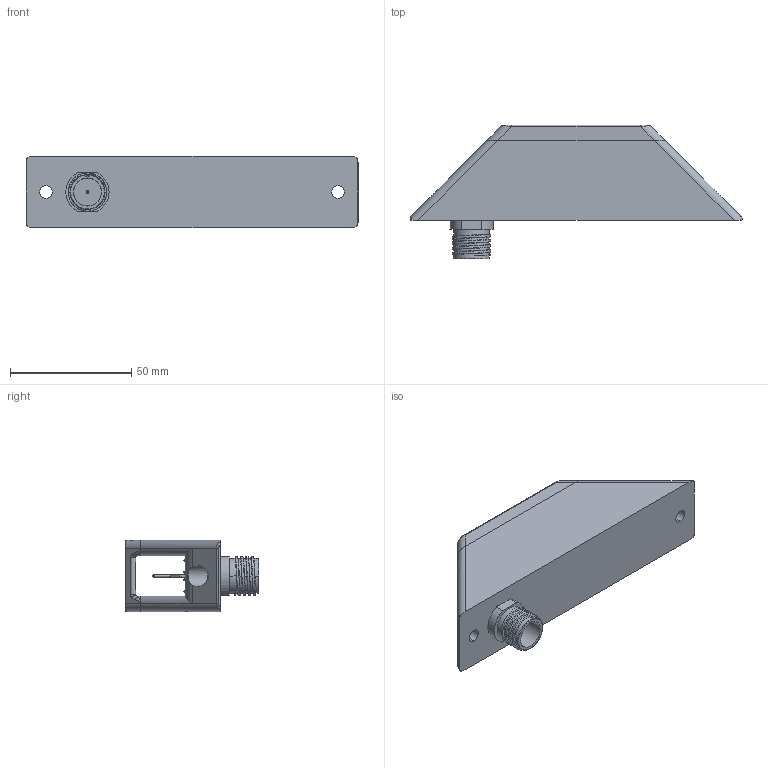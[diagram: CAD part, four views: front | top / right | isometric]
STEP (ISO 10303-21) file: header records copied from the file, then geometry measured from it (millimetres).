
FILE_DESCRIPTION (( 'STEP AP214' ), '1' );
FILE_NAME ('10028 Model 501 MKS-307 no detail RevD.STEP', '2025-05-18T18:50:25', ( '' ), ( '' ), 'SwSTEP 2.0', 'SolidWorks 2023', '' );
FILE_SCHEMA (( 'AUTOMOTIVE_DESIGN' ));
Length unit declared in the file: inch
Products named in the file (1): 10028 Model 501 MKS-307 no detail RevD
Bounding box: 137.16 x 55.3 x 29.44 mm (x, y, z)
Volume: 85824.8 mm3; surface area: 32199.8 mm2
Topology: 19 solids, 19 shells, 862 faces, 2205 edges, 1404 vertices
Faces by surface type: cylinder 415, plane 237, cone 114, bspline 70, torus 24, sphere 2
Entity records: 50118 total; most frequent: CARTESIAN_POINT 19160, ORIENTED_EDGE 4350, DIRECTION 3830, EDGE_CURVE 2175, AXIS2_PLACEMENT_3D 1478, VERTEX_POINT 1402, EDGE_LOOP 953, LENGTH_MEASURE_WITH_UNIT 882
